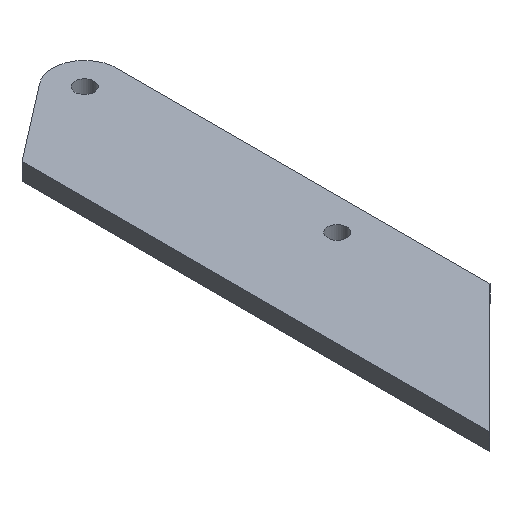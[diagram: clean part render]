
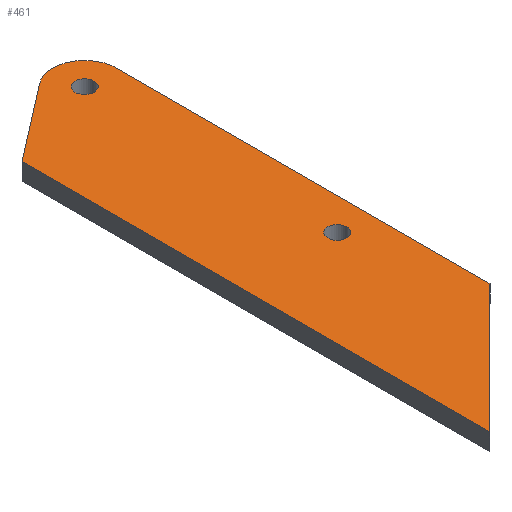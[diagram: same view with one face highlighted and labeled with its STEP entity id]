
A CAD part, isometric view. The second image highlights one B-rep face of the part: STEP entity #461.
In plain terms, the highlighted planar face has unit normal (0, 0, 1).
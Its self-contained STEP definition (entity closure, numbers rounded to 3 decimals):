
#213=CIRCLE('',#436,15.);
#216=CIRCLE('',#444,4.5);
#217=CIRCLE('',#446,4.5);
#250=ORIENTED_EDGE('',*,*,#302,.T.);
#251=ORIENTED_EDGE('',*,*,#313,.T.);
#252=ORIENTED_EDGE('',*,*,#311,.T.);
#253=ORIENTED_EDGE('',*,*,#308,.T.);
#254=ORIENTED_EDGE('',*,*,#305,.F.);
#255=ORIENTED_EDGE('',*,*,#316,.F.);
#256=ORIENTED_EDGE('',*,*,#317,.F.);
#262=VECTOR('',#353,1.);
#266=VECTOR('',#365,1.);
#269=VECTOR('',#370,1.);
#271=VECTOR('',#374,1.);
#275=LINE('',#399,#262);
#279=LINE('',#411,#266);
#282=LINE('',#417,#269);
#284=LINE('',#420,#271);
#286=VERTEX_POINT('',#393);
#288=VERTEX_POINT('',#397);
#290=VERTEX_POINT('',#402);
#292=VERTEX_POINT('',#408);
#294=VERTEX_POINT('',#414);
#297=VERTEX_POINT('',#427);
#298=VERTEX_POINT('',#430);
#302=EDGE_CURVE('',#286,#288,#275,.T.);
#305=EDGE_CURVE('',#286,#290,#213,.T.);
#308=EDGE_CURVE('',#292,#290,#279,.T.);
#311=EDGE_CURVE('',#294,#292,#282,.T.);
#313=EDGE_CURVE('',#288,#294,#284,.T.);
#316=EDGE_CURVE('',#297,#297,#216,.T.);
#317=EDGE_CURVE('',#298,#298,#217,.T.);
#328=EDGE_LOOP('',(#250,#251,#252,#253,#254));
#329=EDGE_LOOP('',(#255));
#330=EDGE_LOOP('',(#256));
#343=FACE_BOUND('',#328,.T.);
#344=FACE_BOUND('',#329,.T.);
#345=FACE_BOUND('',#330,.T.);
#353=DIRECTION('',(-35.848,-27.607,0.));
#359=DIRECTION('',(0.,0.,-1.));
#360=DIRECTION('',(0.,-15.,0.));
#365=DIRECTION('',(0.,174.6,0.));
#370=DIRECTION('',(60.,60.,0.));
#374=DIRECTION('',(0.,-218.878,0.));
#383=DIRECTION('',(0.,0.,1.));
#384=DIRECTION('',(0.,-4.5,0.));
#385=DIRECTION('',(0.,0.,1.));
#386=DIRECTION('',(0.,-1.,0.));
#387=DIRECTION('',(0.,0.,1.));
#388=DIRECTION('',(0.,-4.5,0.));
#393=CARTESIAN_POINT('',(5005.351,13196.38,8.));
#397=CARTESIAN_POINT('',(4969.504,13168.773,8.));
#399=CARTESIAN_POINT('',(5005.351,13196.38,8.));
#402=CARTESIAN_POINT('',(5029.504,13184.495,8.));
#405=CARTESIAN_POINT('',(5014.504,13184.495,8.));
#408=CARTESIAN_POINT('',(5029.504,13009.895,8.));
#411=CARTESIAN_POINT('',(5029.504,13009.895,8.));
#414=CARTESIAN_POINT('',(4969.504,12949.895,8.));
#417=CARTESIAN_POINT('',(4969.504,12949.895,8.));
#420=CARTESIAN_POINT('',(4969.504,13168.773,8.));
#427=CARTESIAN_POINT('',(5014.504,13179.995,8.));
#428=CARTESIAN_POINT('',(5014.504,13184.495,8.));
#429=CARTESIAN_POINT('',(0.,0.,8.));
#430=CARTESIAN_POINT('',(5014.504,13061.86,8.));
#431=CARTESIAN_POINT('',(5014.504,13066.36,8.));
#436=AXIS2_PLACEMENT_3D('',#405,#359,#360);
#444=AXIS2_PLACEMENT_3D('',#428,#383,#384);
#445=AXIS2_PLACEMENT_3D('',#429,#385,#386);
#446=AXIS2_PLACEMENT_3D('',#431,#387,#388);
#453=PLANE('',#445);
#461=ADVANCED_FACE('',(#343,#344,#345),#453,.T.);
